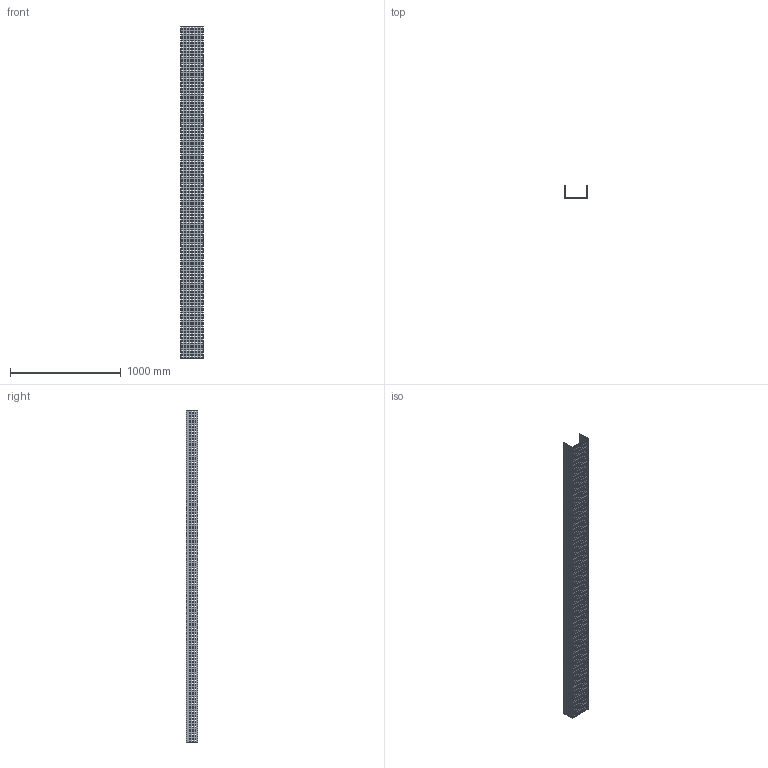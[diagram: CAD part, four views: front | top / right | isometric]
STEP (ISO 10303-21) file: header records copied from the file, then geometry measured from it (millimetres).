
FILE_DESCRIPTION (( 'STEP AP214' ), '1' );
FILE_NAME ('01B3D200.step', '2025-02-21T10:00:24', ( '' ), ( '' ), 'SwSTEP 2.0', 'SolidWorks 2023', '' );
FILE_SCHEMA (( 'AUTOMOTIVE_DESIGN' ));
Products named in the file (1): 01B3D200
Bounding box: 204 x 104 x 3000 mm (x, y, z)
Volume: 3635100 mm3; surface area: 2326827 mm2
Topology: 1 solids, 1 shells, 4042 faces, 12120 edges, 8080 vertices
Faces by surface type: plane 4042
Entity records: 137399 total; most frequent: CARTESIAN_POINT 24243, ORIENTED_EDGE 24240, DIRECTION 20206, EDGE_CURVE 12120, LINE 12120, VECTOR 12120, VERTEX_POINT 8080, EDGE_LOOP 6058
